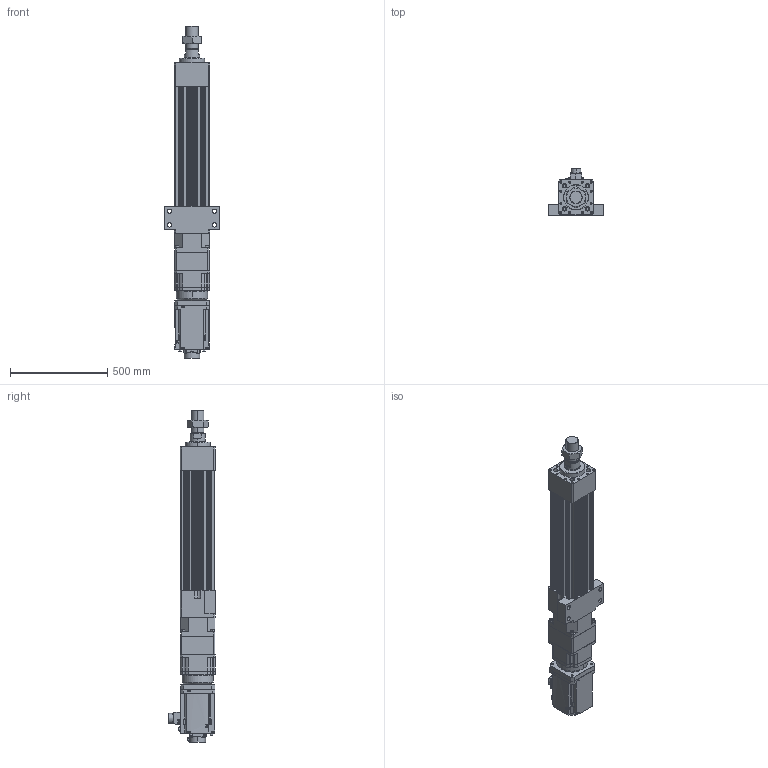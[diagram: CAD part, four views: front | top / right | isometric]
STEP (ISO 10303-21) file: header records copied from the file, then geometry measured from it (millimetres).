
FILE_DESCRIPTION (( 'STEP AP203' ), '1' );
FILE_NAME ('HES180HS-S300-W070G00-M-FFC.STEP', '2026-06-10T06:53:03', ( 'tms' ), ( '' ), 'SwSTEP 2.0', 'SolidWorks 2013', '' );
FILE_SCHEMA (( 'CONFIG_CONTROL_DESIGN' ));
Length unit declared in the file: millimetre
Products named in the file (9): AB1802; HES180-S-G180; AB1803; M64X2.0P; HES180-M-ROD-300; HES180-FFC-300; AB1801; HG-SR702B; HES180HS-S300-W070G00-M-FFC
Assembly tree (8 placements, depth 2):
  HES180HS-S300-W070G00-M-FFC
    HES180-FFC-300
    HES180-M-ROD-300
    M64X2.0P
    HES180-S-G180
    AB1801
    AB1802
    AB1803
    HG-SR702B
Bounding box: 280 x 239.1 x 1705.74 mm (x, y, z)
Volume: 26619560.2 mm3; surface area: 2360046 mm2
Topology: 5 solids, 20 shells, 1590 faces, 4113 edges, 2664 vertices
Faces by surface type: cylinder 720, plane 637, cone 166, bspline 63, torus 4
Entity records: 57254 total; most frequent: CARTESIAN_POINT 16780, DIRECTION 8535, ORIENTED_EDGE 8102, EDGE_CURVE 4075, AXIS2_PLACEMENT_3D 3199, VERTEX_POINT 2664, VECTOR 2137, LINE 2137
